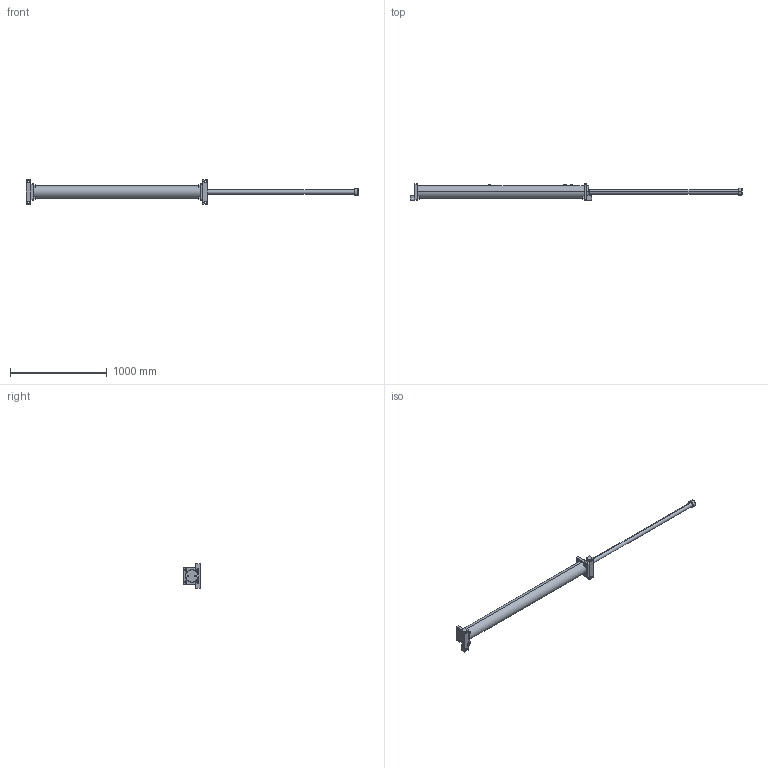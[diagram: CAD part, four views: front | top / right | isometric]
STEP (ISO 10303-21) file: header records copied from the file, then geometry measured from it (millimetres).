
FILE_DESCRIPTION (( 'STEP AP214' ), '1' );
FILE_NAME ('LDD3.0X60.STEP', '2019-01-16T08:02:26', ( 'user' ), ( 'Microsoft' ), 'SwSTEP 2.0', 'SolidWorks 2016', '' );
FILE_SCHEMA (( 'AUTOMOTIVE_DESIGN' ));
Length unit declared in the file: inch
Products named in the file (1): LDD3.0X60
Bounding box: 3434 x 172.5 x 255 mm (x, y, z)
Surface area: 1253181 mm2 (no closed solid volume)
Topology: 0 solids, 30 shells, 269 faces, 765 edges, 523 vertices
Faces by surface type: plane 110, cylinder 84, cone 51, bspline 24
Entity records: 15786 total; most frequent: CARTESIAN_POINT 8919, DIRECTION 1407, ORIENTED_EDGE 1309, EDGE_CURVE 765, VERTEX_POINT 523, AXIS2_PLACEMENT_3D 520, VECTOR 367, LINE 367
